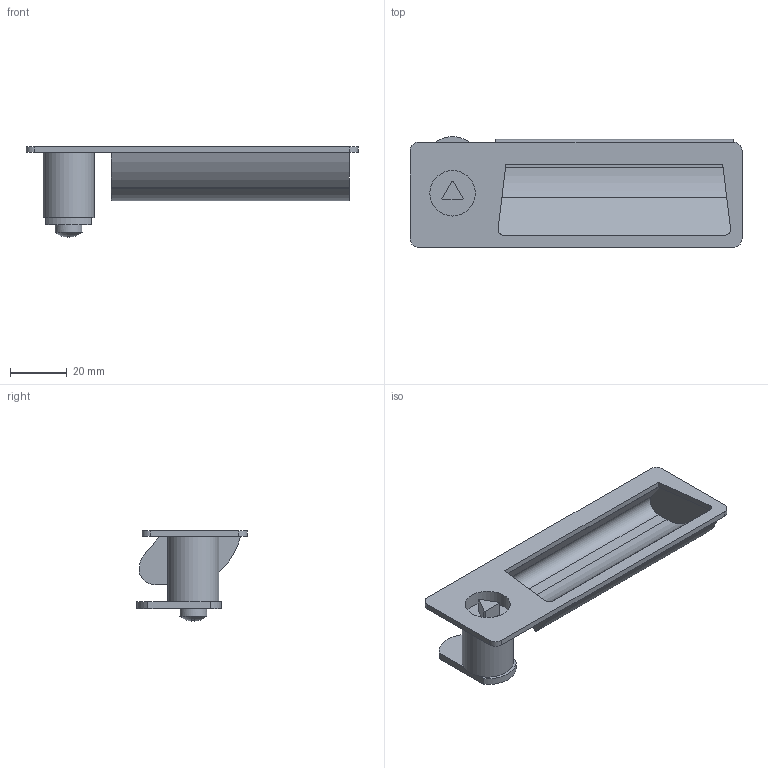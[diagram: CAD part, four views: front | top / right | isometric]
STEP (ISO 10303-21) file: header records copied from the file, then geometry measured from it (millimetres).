
FILE_DESCRIPTION( ( 'STEP AP203' ), '1' );
FILE_NAME( 'C:/Temp/Ganter_Step_05_03_2020/data/3_3/gn731_5/gn731_5_1/Latche with gripping tray GN 731.5-DK-0-20-1-SG (0-23).stp', '2020-03-12T11:49:14', ( 'License CC BY-ND 4.0' ), ( 'CADENAS' ), ' ', 'PARTsolutions', ' ' );
FILE_SCHEMA( ( 'CONFIG_CONTROL_DESIGN' ) );
Length unit declared in the file: millimetre
Products named in the file (3): Latche with gripping tray GN 731.5-DK-0-20-1-SG (0-23); _Latche with gripping tray GN 731.5-DK-0-20-1-SG (0)_1; _Latche with gripping tray GN 731.5-DK-0-20-1-SG (0-23)_2
Assembly tree (2 placements, depth 2):
  Latche with gripping tray GN 731.5-DK-0-20-1-SG (0-23)
    _Latche with gripping tray GN 731.5-DK-0-20-1-SG (0)_1
    _Latche with gripping tray GN 731.5-DK-0-20-1-SG (0-23)_2
Bounding box: 117 x 38.96 x 31.88 mm (x, y, z)
Volume: 23255.6 mm3; surface area: 19519.5 mm2
Topology: 2 solids, 2 shells, 87 faces, 221 edges, 144 vertices
Faces by surface type: plane 63, cylinder 23, sphere 1
Full cylindrical faces by diameter (mm): 9.5 x1, 16 x1, 18 x1
Entity records: 2687 total; most frequent: DIRECTION 461, CARTESIAN_POINT 445, ORIENTED_EDGE 428, EDGE_CURVE 214, AXIS2_PLACEMENT_3D 157, LINE 147, VECTOR 147, VERTEX_POINT 141
